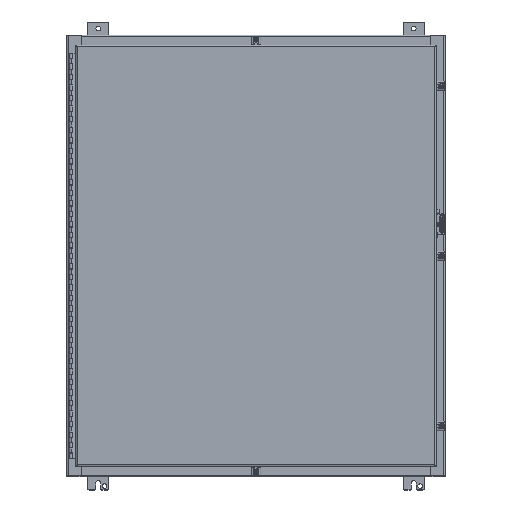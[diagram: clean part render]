
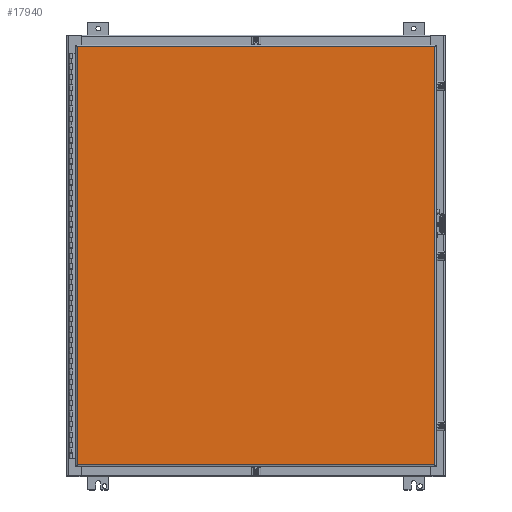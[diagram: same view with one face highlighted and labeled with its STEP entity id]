
A CAD part, top view. The second image highlights one B-rep face of the part: STEP entity #17940.
In plain terms, the highlighted planar face has unit normal (0, 0, 1) as drawn and (0, 1, 0) by its records, which use the part's own axes.
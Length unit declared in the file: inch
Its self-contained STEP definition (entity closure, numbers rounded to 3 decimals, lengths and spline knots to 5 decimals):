
#15951=DIRECTION('',(0.,0.,1.));
#15952=VECTOR('',#15951,33.96);
#15953=CARTESIAN_POINT('',(-19.88638,0.,0.145));
#15954=LINE('',#15953,#15952);
#16001=DIRECTION('',(0.,0.,1.));
#16002=VECTOR('',#16001,33.96);
#16003=CARTESIAN_POINT('',(19.88638,0.,0.145));
#16004=LINE('',#16003,#16002);
#16103=DIRECTION('',(-1.,0.,0.));
#16104=VECTOR('',#16103,39.77275);
#16105=CARTESIAN_POINT('',(19.88638,0.,0.145));
#16106=LINE('',#16105,#16104);
#16947=DIRECTION('',(-1.,0.,0.));
#16948=VECTOR('',#16947,39.77275);
#16949=CARTESIAN_POINT('',(19.88638,0.,34.105));
#16950=LINE('',#16949,#16948);
#17231=CARTESIAN_POINT('',(19.88638,0.,0.145));
#17232=CARTESIAN_POINT('',(-19.88638,0.,0.145));
#17233=VERTEX_POINT('',#17231);
#17234=VERTEX_POINT('',#17232);
#17235=CARTESIAN_POINT('',(19.88638,0.,34.105));
#17236=CARTESIAN_POINT('',(-19.88638,0.,34.105));
#17237=VERTEX_POINT('',#17235);
#17238=VERTEX_POINT('',#17236);
#17926=CARTESIAN_POINT('',(20.03138,0.,0.));
#17927=DIRECTION('',(0.,1.,0.));
#17928=DIRECTION('',(-1.,0.,0.));
#17929=AXIS2_PLACEMENT_3D('',#17926,#17927,#17928);
#17930=PLANE('',#17929);
#17932=ORIENTED_EDGE('',*,*,#17931,.T.);
#17934=ORIENTED_EDGE('',*,*,#17933,.T.);
#17935=ORIENTED_EDGE('',*,*,#17916,.F.);
#17937=ORIENTED_EDGE('',*,*,#17936,.F.);
#17938=EDGE_LOOP('',(#17932,#17934,#17935,#17937));
#17939=FACE_OUTER_BOUND('',#17938,.F.);
#17916=EDGE_CURVE('',#17234,#17238,#15954,.T.);
#17931=EDGE_CURVE('',#17233,#17237,#16004,.T.);
#17933=EDGE_CURVE('',#17237,#17238,#16950,.T.);
#17936=EDGE_CURVE('',#17233,#17234,#16106,.T.);
#17940=ADVANCED_FACE('',(#17939),#17930,.T.);
